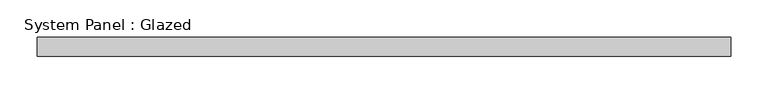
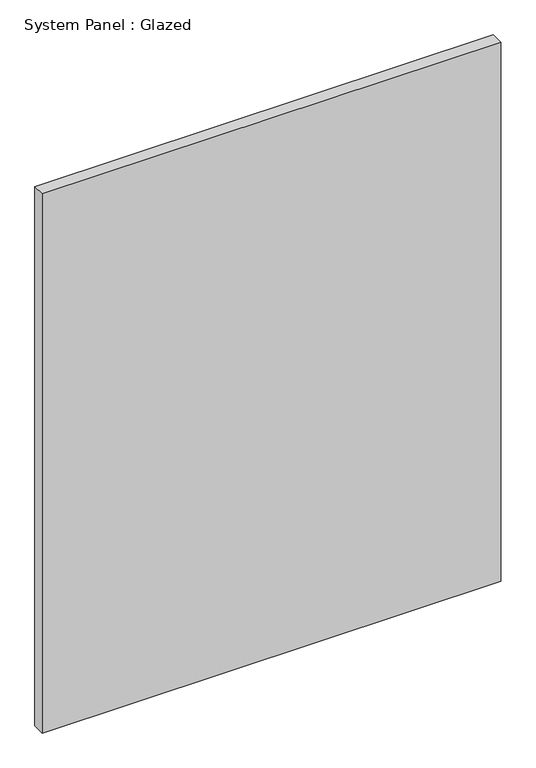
"""IFC4 building model written with IfcOpenShell, lengths in millimetres: plate geometry, System Panel : Glazed."""

from ifc_helpers import new_model, si_unit, origin, origin_with_axes, place, context, project, spatial, polyline, outline, extrude, source, transform, mapped, element, save


def system_panel_glazed_8c18451d(model_context):
    return source(origin(), model_context, "Body", "SweptSolid", [
        extrude(outline(polyline([(462.5, 24.5), (-462.5, 24.5), (-462.5, 49.5), (462.5, 49.5), (462.5, 24.5)])), origin_with_axes(), (0.0, 0.0, 1.0), 1150.0),
    ])


if __name__ == "__main__":
    model = new_model("IFC4")
    model_context = context("Model", 3, world=origin())
    ifc_project = project(units=[si_unit("LENGTHUNIT", "METRE", prefix="MILLI")], contexts=[model_context])
    site = spatial("IfcSite", under=ifc_project)
    building = spatial("IfcBuilding", under=site)
    placement = place(None, origin())
    system_panel_glazed_shape = system_panel_glazed_8c18451d(model_context)
    element("IfcPlate", 1, ObjectType="System Panel : Glazed", at=placement, inside=building, context=model_context, shape_type="MappedRepresentation", body=[
        mapped(system_panel_glazed_shape, transform((0.0, 0.0, 0.0), x_axis=(1.0, 0.0, 0.0), y_axis=(0.0, 1.0, 0.0), z_axis=(0.0, 0.0, 1.0))),
    ])
    save(model, "model.ifc")
